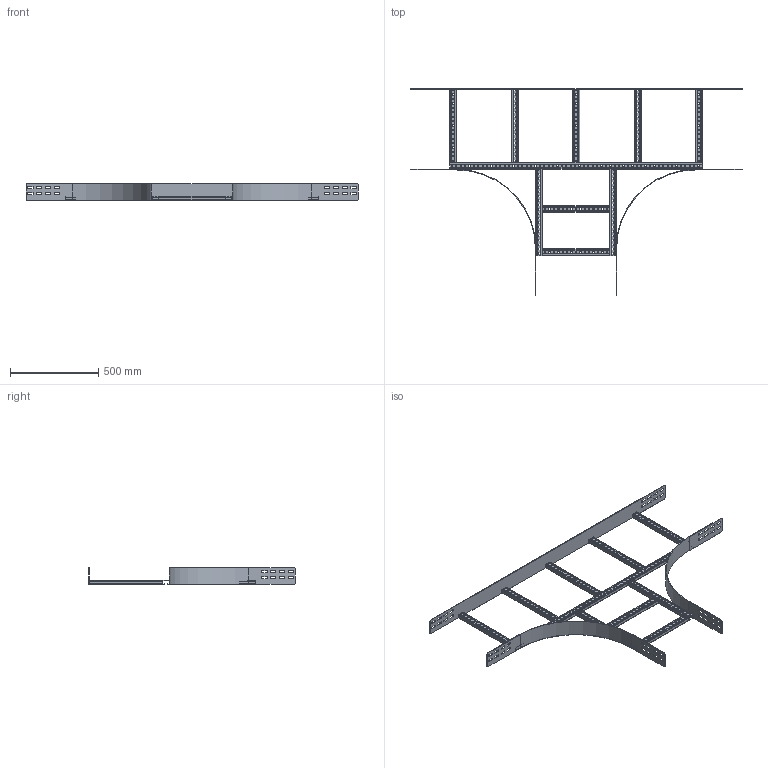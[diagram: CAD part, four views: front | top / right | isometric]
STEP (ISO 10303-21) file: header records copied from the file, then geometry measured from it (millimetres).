
FILE_DESCRIPTION(('Creo Elements/Direct Modeling STEP Export'),'2;1');
FILE_NAME('WPTP10-45-45-HDG.stp','2016-11-10T15:25:04',(''),(''),'PTC Creo Elements/Direct Modeling STEP processor for AP214 (Solid Model)','PTC Creo Elements/Direct Modeling 19.0C 15-Aug-2015 (C) Parametric Technology GmbH','');
FILE_SCHEMA(('AUTOMOTIVE_DESIGN { 1 0 10303 214 1 1 1 1 }'));
Length unit declared in the file: millimetre
Products named in the file (7): WPKS45; WPBI_100; WPKSP2; WPKSP1-45; WPTPS45; WPAAG_100-45; WPTP10-45-45
Assembly tree (13 placements, depth 2):
  WPTP10-45-45
    WPTPS45  x5
    WPBI_100  x2
    WPKSP2  x2
    WPAAG_100-45
    WPKSP1-45
    WPKS45  x2
Bounding box: 1885 x 1173 x 95 mm (x, y, z)
Volume: 1959552.2 mm3; surface area: 1893549.4 mm2
Topology: 13 solids, 13 shells, 1496 faces, 4410 edges, 2940 vertices
Faces by surface type: plane 872, cylinder 624
Entity records: 26006 total; most frequent: CARTESIAN_POINT 4473, ORIENTED_EDGE 4464, DIRECTION 4342, EDGE_CURVE 2232, VECTOR 1628, LINE 1628, VERTEX_POINT 1488, AXIS2_PLACEMENT_3D 1357
